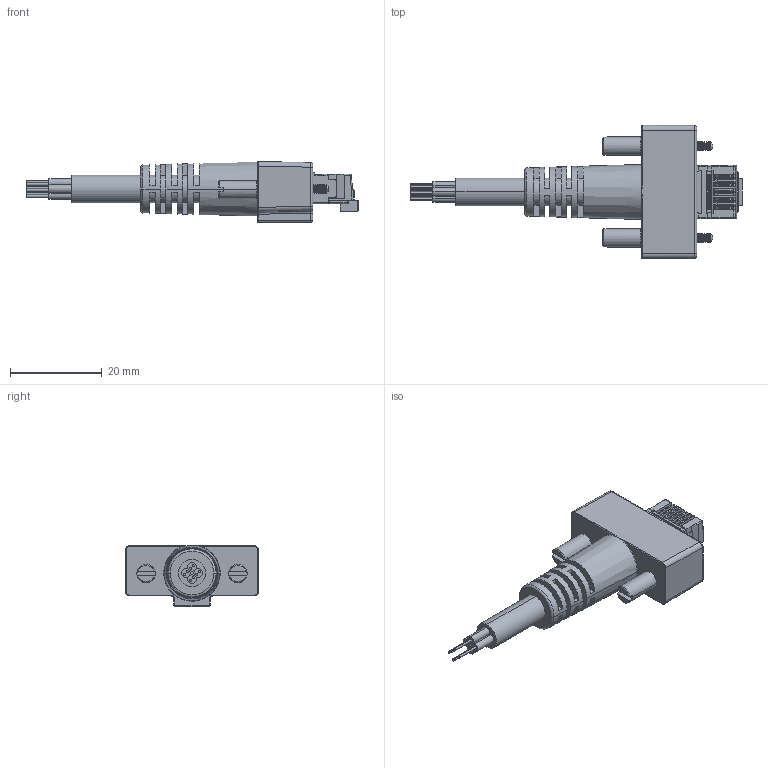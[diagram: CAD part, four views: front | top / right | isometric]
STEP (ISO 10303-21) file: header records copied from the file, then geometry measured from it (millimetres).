
FILE_DESCRIPTION (( 'STEP AP214' ), '1' );
FILE_NAME ('MV-3.STEP', '2023-06-22T15:25:05', ( '' ), ( '' ), 'SwSTEP 2.0', 'SolidWorks 2021', '' );
FILE_SCHEMA (( 'AUTOMOTIVE_DESIGN' ));
Length unit declared in the file: millimetre
Products named in the file (8): MI_Cable_Ethernet; C0332; MV-3; SS-39200-011 Body NT; SS-39200-011 Contacts; SS-39200-011 NT; SS-39200-011 Shield; MV-3 Overmold
Assembly tree (8 placements, depth 3):
  MV-3
    SS-39200-011 NT
      SS-39200-011 Body NT
      SS-39200-011 Contacts
      SS-39200-011 Shield
    MV-3 Overmold
    C0332  x2
    MI_Cable_Ethernet
Bounding box: 72.36 x 29 x 13.3 mm (x, y, z)
Volume: 6733.9 mm3; surface area: 7059.7 mm2
Topology: 24 solids, 28 shells, 840 faces, 2277 edges, 1467 vertices
Faces by surface type: plane 556, cylinder 211, bspline 51, cone 20, torus 2
Entity records: 34924 total; most frequent: CARTESIAN_POINT 14897, ORIENTED_EDGE 4312, DIRECTION 3642, EDGE_CURVE 2160, VECTOR 1530, LINE 1530, VERTEX_POINT 1401, AXIS2_PLACEMENT_3D 1056
